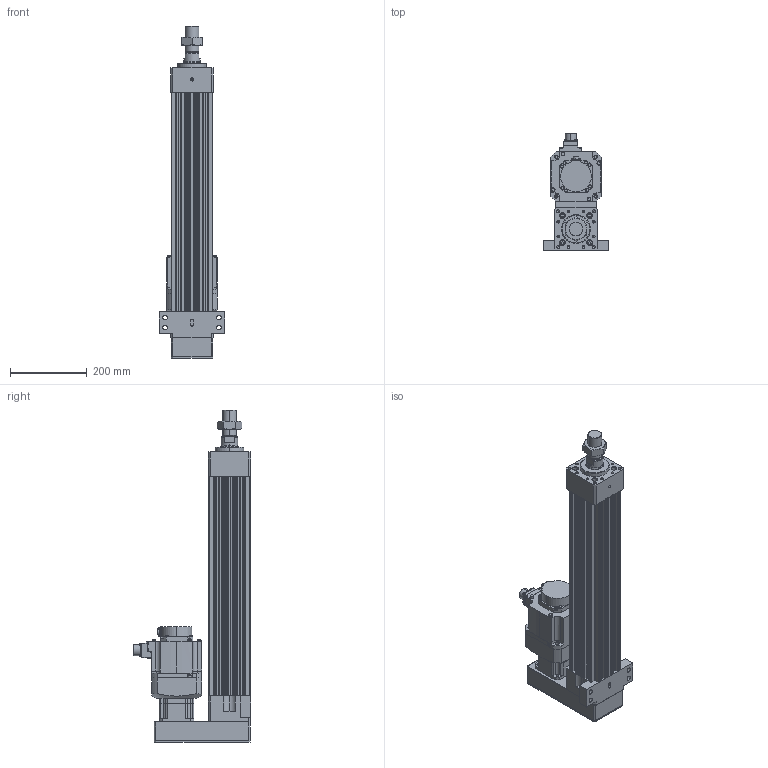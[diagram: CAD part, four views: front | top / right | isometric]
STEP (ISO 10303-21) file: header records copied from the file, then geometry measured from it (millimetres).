
FILE_DESCRIPTION (( 'STEP AP203' ), '1' );
FILE_NAME ('HES110NS(HS)-P400-W010G00-M-FFC.STEP', '2023-01-26T10:14:16', ( 'tms' ), ( '' ), 'SwSTEP 2.0', 'SolidWorks 2013', '' );
FILE_SCHEMA (( 'CONFIG_CONTROL_DESIGN' ));
Length unit declared in the file: millimetre
Products named in the file (8): HG-SR102; P0401301004; HES110 ROD M ST400; AB090-003[HG-SR102B]; M36X1.5P; AB0901; HES110NS(HS)-P400-W010G00-M-FFC; HES110-P400-G090-FFC
Assembly tree (7 placements, depth 3):
  HES110NS(HS)-P400-W010G00-M-FFC
    HES110-P400-G090-FFC
    HES110 ROD M ST400
    M36X1.5P
    AB090-003[HG-SR102B]
      AB0901
      P0401301004
    HG-SR102
Bounding box: 170 x 304.99 x 863 mm (x, y, z)
Volume: 8031529 mm3; surface area: 1026772.8 mm2
Topology: 4 solids, 11 shells, 1111 faces, 2835 edges, 1826 vertices
Faces by surface type: cylinder 519, plane 486, cone 94, bspline 8, torus 4
Entity records: 35472 total; most frequent: CARTESIAN_POINT 6938, DIRECTION 6110, ORIENTED_EDGE 5574, EDGE_CURVE 2797, AXIS2_PLACEMENT_3D 2269, VERTEX_POINT 1826, LINE 1572, VECTOR 1572
